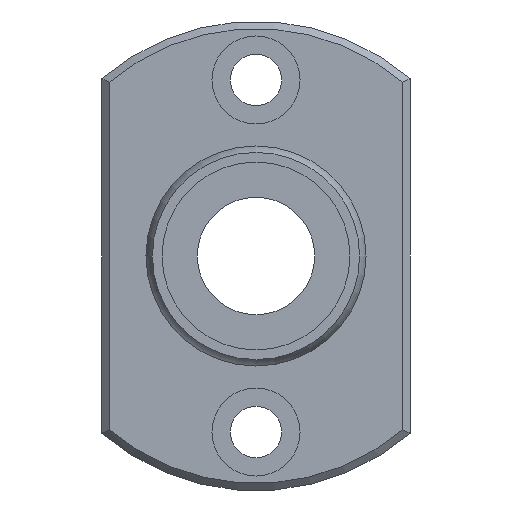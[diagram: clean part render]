
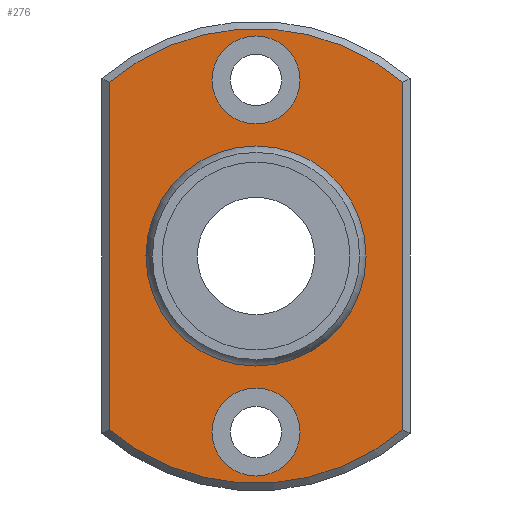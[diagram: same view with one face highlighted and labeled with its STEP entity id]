
A CAD part, left-side view. The second image highlights one B-rep face of the part: STEP entity #276.
In plain terms, the highlighted planar face has unit normal (-1, 0, 0).
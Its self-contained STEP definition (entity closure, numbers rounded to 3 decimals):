
#59=CARTESIAN_POINT('',(20.0,-10.,11.843));
#60=VERTEX_POINT('',#59);
#68=CARTESIAN_POINT('',(20.0,-10.,-11.843));
#69=VERTEX_POINT('',#68);
#70=CARTESIAN_POINT('',(20.0,-10.,11.843));
#71=DIRECTION('',(0.0,0.0,-1.0));
#72=VECTOR('',#71,23.685);
#73=LINE('',#70,#72);
#74=EDGE_CURVE('',#60,#69,#73,.T.);
#101=CARTESIAN_POINT('',(20.0,10.0,-11.843));
#102=VERTEX_POINT('',#101);
#103=CARTESIAN_POINT('',(20.0,0.0,0.0));
#104=DIRECTION('',(1.0,0.0,0.0));
#105=DIRECTION('',(0.0,0.0,-1.0));
#106=AXIS2_PLACEMENT_3D('',#103,#104,#105);
#107=CIRCLE('',#106,15.5);
#108=EDGE_CURVE('',#69,#102,#107,.T.);
#134=CARTESIAN_POINT('',(20.0,10.,11.843));
#135=VERTEX_POINT('',#134);
#136=CARTESIAN_POINT('',(20.0,10.0,-11.843));
#137=DIRECTION('',(0.0,0.0,1.0));
#138=VECTOR('',#137,23.685);
#139=LINE('',#136,#138);
#140=EDGE_CURVE('',#102,#135,#139,.T.);
#165=CARTESIAN_POINT('',(20.0,0.0,0.0));
#166=DIRECTION('',(1.0,0.0,0.0));
#167=DIRECTION('',(0.0,0.0,1.0));
#168=AXIS2_PLACEMENT_3D('',#165,#166,#167);
#169=CIRCLE('',#168,15.5);
#170=EDGE_CURVE('',#135,#60,#169,.T.);
#232=CARTESIAN_POINT('',(20.0,0.0,11.655));
#233=DIRECTION('',(-1.0,0.0,0.0));
#234=DIRECTION('',(0.0,0.0,1.0));
#235=AXIS2_PLACEMENT_3D('',#232,#233,#234);
#236=PLANE('',#235);
#237=ORIENTED_EDGE('',*,*,#74,.F.);
#238=ORIENTED_EDGE('',*,*,#170,.F.);
#239=ORIENTED_EDGE('',*,*,#140,.F.);
#240=ORIENTED_EDGE('',*,*,#108,.F.);
#241=EDGE_LOOP('',(#237,#238,#239,#240));
#242=FACE_OUTER_BOUND('',#241,.T.);
#243=CARTESIAN_POINT('',(20.,0.0,7.309));
#244=VERTEX_POINT('',#243);
#245=CARTESIAN_POINT('',(20.0,0.0,0.0));
#246=DIRECTION('',(-1.0,0.0,0.0));
#247=DIRECTION('',(0.0,0.0,1.0));
#248=AXIS2_PLACEMENT_3D('',#245,#246,#247);
#249=CIRCLE('',#248,7.309);
#250=EDGE_CURVE('',#244,#244,#249,.T.);
#251=ORIENTED_EDGE('',*,*,#250,.F.);
#252=EDGE_LOOP('',(#251));
#253=FACE_BOUND('',#252,.T.);
#254=CARTESIAN_POINT('',(20.0,3.,-12.));
#255=VERTEX_POINT('',#254);
#256=CARTESIAN_POINT('',(20.0,0.,-12.));
#257=DIRECTION('',(1.0,0.0,0.0));
#258=DIRECTION('',(0.0,1.0,0.0));
#259=AXIS2_PLACEMENT_3D('',#256,#257,#258);
#260=CIRCLE('',#259,3.);
#261=EDGE_CURVE('',#255,#255,#260,.T.);
#262=ORIENTED_EDGE('',*,*,#261,.T.);
#263=EDGE_LOOP('',(#262));
#264=FACE_BOUND('',#263,.T.);
#265=CARTESIAN_POINT('',(20.0,3.,12.));
#266=VERTEX_POINT('',#265);
#267=CARTESIAN_POINT('',(20.0,0.,12.));
#268=DIRECTION('',(1.0,0.0,0.0));
#269=DIRECTION('',(0.0,1.0,0.0));
#270=AXIS2_PLACEMENT_3D('',#267,#268,#269);
#271=CIRCLE('',#270,3.);
#272=EDGE_CURVE('',#266,#266,#271,.T.);
#273=ORIENTED_EDGE('',*,*,#272,.T.);
#274=EDGE_LOOP('',(#273));
#275=FACE_BOUND('',#274,.T.);
#276=ADVANCED_FACE('',(#242,#253,#264,#275),#236,.T.);
